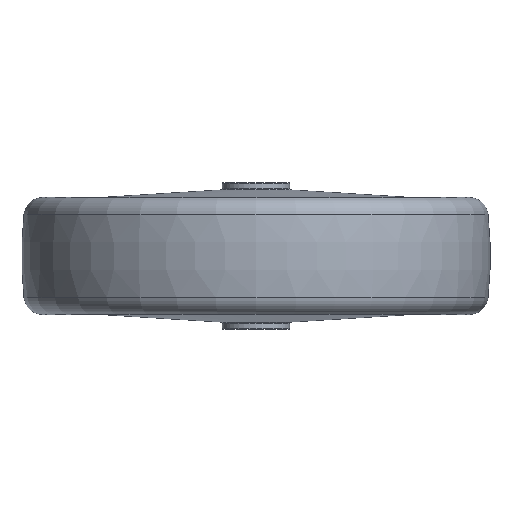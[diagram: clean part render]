
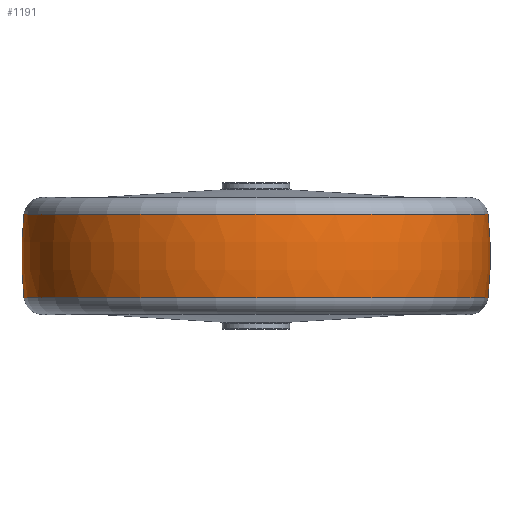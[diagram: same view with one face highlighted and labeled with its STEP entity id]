
A CAD part, front view. The second image highlights one B-rep face of the part: STEP entity #1191.
In plain terms, the highlighted toroidal (fillet/blend) face has major radius 42.869 mm and minor radius 106.369 mm.
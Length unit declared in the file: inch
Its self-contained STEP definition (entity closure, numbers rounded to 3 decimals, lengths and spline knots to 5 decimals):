
#42 = VERTEX_POINT ( 'NONE', #1055 ) ;
#74 = ORIENTED_EDGE ( 'NONE', *, *, #1380, .T. ) ;
#78 = AXIS2_PLACEMENT_3D ( 'NONE', #1155, #751, #402 ) ;
#149 = DIRECTION ( 'NONE',  ( 1., 0., 0. ) ) ;
#168 = EDGE_CURVE ( 'NONE', #399, #1269, #774, .T. ) ;
#235 = VERTEX_POINT ( 'NONE', #522 ) ;
#275 = EDGE_CURVE ( 'NONE', #1269, #235, #1072, .T. ) ;
#299 = AXIS2_PLACEMENT_3D ( 'NONE', #1313, #818, #527 ) ;
#399 = VERTEX_POINT ( 'NONE', #1474 ) ;
#402 = DIRECTION ( 'NONE',  ( -1., 0., 0. ) ) ;
#453 = DIRECTION ( 'NONE',  ( 0., 0., 1. ) ) ;
#473 = AXIS2_PLACEMENT_3D ( 'NONE', #583, #453, #1255 ) ;
#522 = CARTESIAN_POINT ( 'NONE',  ( -2.47615, 0., 0.44632 ) ) ;
#527 = DIRECTION ( 'NONE',  ( 0., 0., -1. ) ) ;
#548 = FACE_OUTER_BOUND ( 'NONE', #1283, .T. ) ;
#583 = CARTESIAN_POINT ( 'NONE',  ( 0., 0., -0.44632 ) ) ;
#610 = ORIENTED_EDGE ( 'NONE', *, *, #652, .F. ) ;
#652 = EDGE_CURVE ( 'NONE', #42, #235, #740, .T. ) ;
#739 = AXIS2_PLACEMENT_3D ( 'NONE', #951, #1077, #1089 ) ;
#740 = CIRCLE ( 'NONE', #739, 4.18776 ) ;
#751 = DIRECTION ( 'NONE',  ( 0., 0., -1. ) ) ;
#753 = CARTESIAN_POINT ( 'NONE',  ( 2.47615, 0., 0.44632 ) ) ;
#759 = CARTESIAN_POINT ( 'NONE',  ( 0., 0., 0. ) ) ;
#774 = CIRCLE ( 'NONE', #299, 4.18776 ) ;
#818 = DIRECTION ( 'NONE',  ( 0., -1., 0. ) ) ;
#951 = CARTESIAN_POINT ( 'NONE',  ( 1.68776, 0., 0. ) ) ;
#1055 = CARTESIAN_POINT ( 'NONE',  ( -2.47615, 0., -0.44632 ) ) ;
#1072 = CIRCLE ( 'NONE', #78, 2.47615 ) ;
#1075 = ORIENTED_EDGE ( 'NONE', *, *, #275, .T. ) ;
#1077 = DIRECTION ( 'NONE',  ( 0., 1., 0. ) ) ;
#1089 = DIRECTION ( 'NONE',  ( -1., 0., 0. ) ) ;
#1095 = CIRCLE ( 'NONE', #473, 2.47615 ) ;
#1135 = ORIENTED_EDGE ( 'NONE', *, *, #168, .T. ) ;
#1138 = DIRECTION ( 'NONE',  ( 0., 0., 1. ) ) ;
#1155 = CARTESIAN_POINT ( 'NONE',  ( 0., 0., 0.44632 ) ) ;
#1191 = ADVANCED_FACE ( 'NONE', ( #548 ), #1558, .T. ) ;
#1255 = DIRECTION ( 'NONE',  ( 1., 0., 0. ) ) ;
#1269 = VERTEX_POINT ( 'NONE', #753 ) ;
#1283 = EDGE_LOOP ( 'NONE', ( #610, #74, #1135, #1075 ) ) ;
#1298 = AXIS2_PLACEMENT_3D ( 'NONE', #759, #1138, #149 ) ;
#1313 = CARTESIAN_POINT ( 'NONE',  ( -1.68776, 0., 0. ) ) ;
#1380 = EDGE_CURVE ( 'NONE', #42, #399, #1095, .T. ) ;
#1474 = CARTESIAN_POINT ( 'NONE',  ( 2.47615, 0., -0.44632 ) ) ;
#1558 = TOROIDAL_SURFACE ( 'NONE', #1298, -1.68776, 4.18776 ) ;
